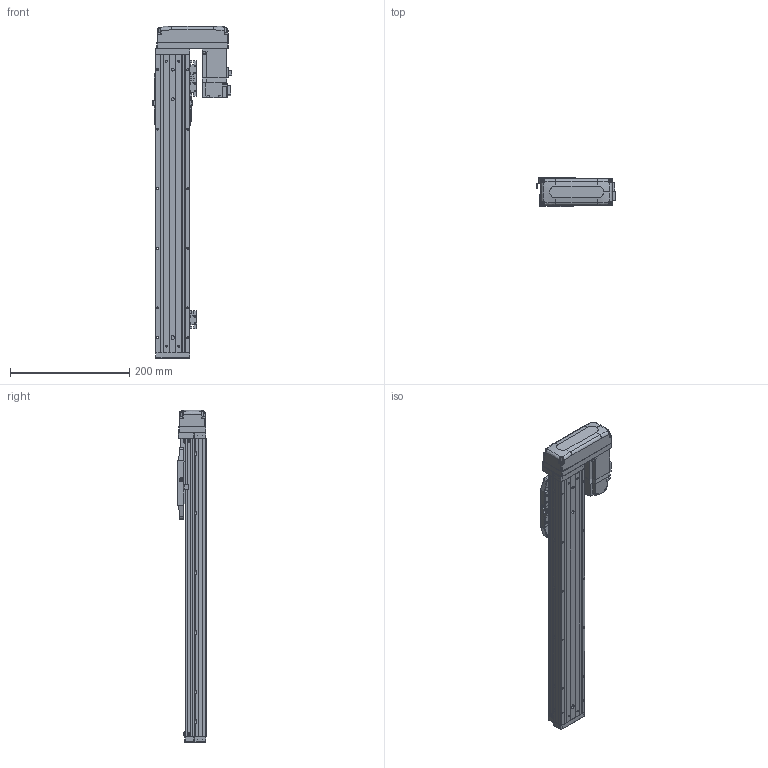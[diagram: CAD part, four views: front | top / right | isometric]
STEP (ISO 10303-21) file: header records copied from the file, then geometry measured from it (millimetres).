
FILE_DESCRIPTION (( 'STEP AP203' ), '1' );
FILE_NAME ('CTHA50-350-BL-M10-C4L.step', '2022-03-19T05:59:35', ( '微软用户' ), ( '微软中国' ), 'SwSTEP 2.0', 'SolidWorks 2020', '' );
FILE_SCHEMA (( 'CONFIG_CONTROL_DESIGN' ));
Length unit declared in the file: millimetre
Products named in the file (20): CTHA60-016; KTHA50-005; CTHA50-015-2_CTHA60-015-2; GB¨uT 70.2-M3¡Á6_M3¡Á6; CTHA60-021; CTHA60-033; EE_SX911P_R; HG-KR13（三菱）; GBT 70.1-M3×15; GBT77-2000 M3×3; CTHA50-002; CTHA50-350-BL-M10-C4L; GBT 70.1-M3℅6; CTHA50-030; CTHA60-017; KTHA50-001_500; CTHA50-031; GBT 70.1-M4×12; KTHA50-004; GBT 70.3-M3℅6
Assembly tree (60 placements, depth 2):
  CTHA50-350-BL-M10-C4L
    KTHA50-001_500
    KTHA50-004
    KTHA50-005
    GB¨uT 70.2-M3¡Á6_M3¡Á6  x10
    EE_SX911P_R  x3
    GBT77-2000 M3×3  x6
    GBT 70.1-M3℅6  x6
    CTHA60-017  x3
    GBT 70.1-M4×12  x10
    CTHA60-016  x2
    CTHA60-021  x2
    HG-KR13（三菱）
    CTHA50-002
    CTHA50-030  x2
    CTHA50-031
    GBT 70.3-M3℅6  x4
    CTHA50-015-2_CTHA60-015-2
    CTHA60-033
    GBT 70.1-M3×15  x4
Bounding box: 132.6 x 48 x 557 mm (x, y, z)
Volume: 1164165.9 mm3; surface area: 301003 mm2
Topology: 62 solids, 62 shells, 2513 faces, 5967 edges, 3654 vertices
Faces by surface type: plane 1422, cylinder 582, cone 351, torus 108, bspline 26, sphere 24
Entity records: 42685 total; most frequent: CARTESIAN_POINT 7883, DIRECTION 6645, ORIENTED_EDGE 6442, EDGE_CURVE 3221, LINE 2253, VECTOR 2253, AXIS2_PLACEMENT_3D 2196, VERTEX_POINT 2028
